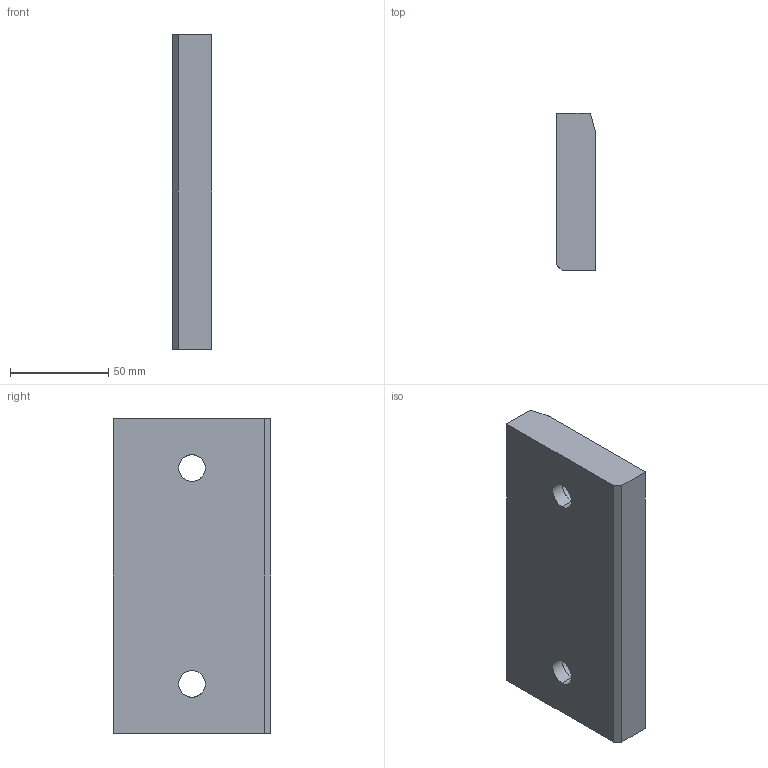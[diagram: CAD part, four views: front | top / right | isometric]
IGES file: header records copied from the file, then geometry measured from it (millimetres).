
Start section: START RECORD GO HERE.
Global section: file name: A915-160X80.igs; native system: DASSAULT SYSTEMES CATIA V5 R20 - www.3ds.com; preprocessor: CATIA Version 5 Release 20 ; author: Utente; organization: NB04-ASUS; date: 20200407.210203; units: millimetre
Bounding box: 20 x 80 x 160 mm (x, y, z)
Surface area: 36010.6 mm2 (no closed solid volume)
Topology: 0 solids, 0 shells, 23 faces, 106 edges, 106 vertices
Faces by surface type: revolution 13, extrusion 10
